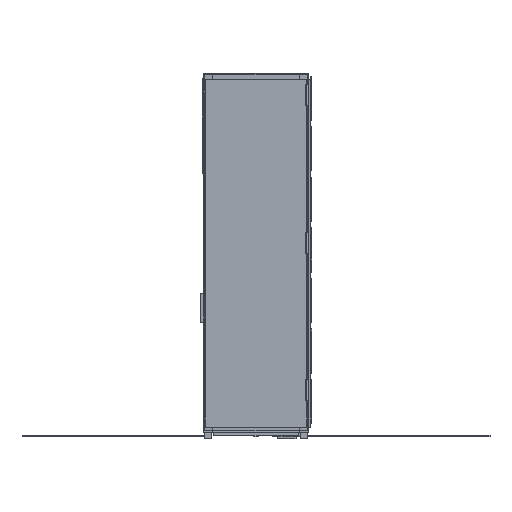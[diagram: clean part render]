
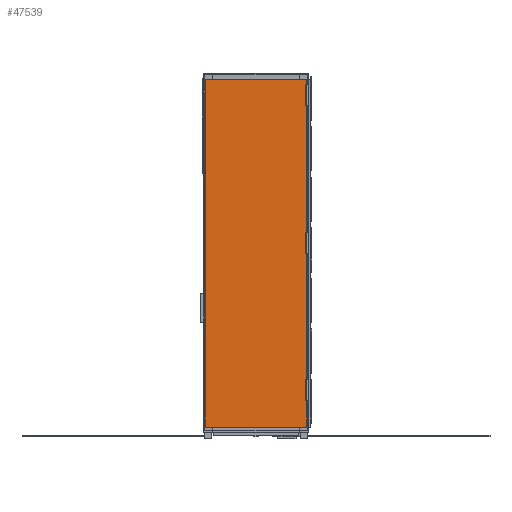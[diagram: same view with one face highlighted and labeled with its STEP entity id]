
A CAD part, front view. The second image highlights one B-rep face of the part: STEP entity #47539.
In plain terms, the highlighted planar face has unit normal (0, -1, 0).
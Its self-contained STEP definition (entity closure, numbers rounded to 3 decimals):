
#47323 = EDGE_CURVE('',#47324,#47326,#47328,.T.);
#47324 = VERTEX_POINT('',#47325);
#47325 = CARTESIAN_POINT('',(-48.,-1.25,-165.));
#47326 = VERTEX_POINT('',#47327);
#47327 = CARTESIAN_POINT('',(-48.,-1.25,165.));
#47328 = SURFACE_CURVE('',#47329,(#47333,#47345),.PCURVE_S1.);
#47329 = LINE('',#47330,#47331);
#47330 = CARTESIAN_POINT('',(-48.,-1.25,-165.));
#47331 = VECTOR('',#47332,1.);
#47332 = DIRECTION('',(0.,0.,1.));
#47333 = PCURVE('',#47334,#47339);
#47334 = PLANE('',#47335);
#47335 = AXIS2_PLACEMENT_3D('',#47336,#47337,#47338);
#47336 = CARTESIAN_POINT('',(-48.,-1.25,-165.));
#47337 = DIRECTION('',(1.,0.,-0.));
#47338 = DIRECTION('',(0.,0.,1.));
#47339 = DEFINITIONAL_REPRESENTATION('',(#47340),#47344);
#47340 = LINE('',#47341,#47342);
#47341 = CARTESIAN_POINT('',(0.,0.));
#47342 = VECTOR('',#47343,1.);
#47343 = DIRECTION('',(1.,0.));
#47344 = ( GEOMETRIC_REPRESENTATION_CONTEXT(2) 
PARAMETRIC_REPRESENTATION_CONTEXT() REPRESENTATION_CONTEXT('2D SPACE',''
  ) );
#47345 = PCURVE('',#47346,#47351);
#47346 = PLANE('',#47347);
#47347 = AXIS2_PLACEMENT_3D('',#47348,#47349,#47350);
#47348 = CARTESIAN_POINT('',(-48.,-1.25,-165.));
#47349 = DIRECTION('',(-0.,1.,0.));
#47350 = DIRECTION('',(0.,0.,1.));
#47351 = DEFINITIONAL_REPRESENTATION('',(#47352),#47356);
#47352 = LINE('',#47353,#47354);
#47353 = CARTESIAN_POINT('',(0.,0.));
#47354 = VECTOR('',#47355,1.);
#47355 = DIRECTION('',(1.,0.));
#47356 = ( GEOMETRIC_REPRESENTATION_CONTEXT(2) 
PARAMETRIC_REPRESENTATION_CONTEXT() REPRESENTATION_CONTEXT('2D SPACE',''
  ) );
#47374 = PLANE('',#47375);
#47375 = AXIS2_PLACEMENT_3D('',#47376,#47377,#47378);
#47376 = CARTESIAN_POINT('',(-48.,-1.25,-165.));
#47377 = DIRECTION('',(0.,0.,1.));
#47378 = DIRECTION('',(1.,0.,-0.));
#47428 = PLANE('',#47429);
#47429 = AXIS2_PLACEMENT_3D('',#47430,#47431,#47432);
#47430 = CARTESIAN_POINT('',(-48.,-1.25,165.));
#47431 = DIRECTION('',(0.,0.,1.));
#47432 = DIRECTION('',(1.,0.,-0.));
#47443 = EDGE_CURVE('',#47444,#47446,#47448,.T.);
#47444 = VERTEX_POINT('',#47445);
#47445 = CARTESIAN_POINT('',(48.,-1.25,-165.));
#47446 = VERTEX_POINT('',#47447);
#47447 = CARTESIAN_POINT('',(48.,-1.25,165.));
#47448 = SURFACE_CURVE('',#47449,(#47453,#47465),.PCURVE_S1.);
#47449 = LINE('',#47450,#47451);
#47450 = CARTESIAN_POINT('',(48.,-1.25,-165.));
#47451 = VECTOR('',#47452,1.);
#47452 = DIRECTION('',(0.,0.,1.));
#47453 = PCURVE('',#47454,#47459);
#47454 = PLANE('',#47455);
#47455 = AXIS2_PLACEMENT_3D('',#47456,#47457,#47458);
#47456 = CARTESIAN_POINT('',(48.,-1.25,-165.));
#47457 = DIRECTION('',(1.,0.,-0.));
#47458 = DIRECTION('',(0.,0.,1.));
#47459 = DEFINITIONAL_REPRESENTATION('',(#47460),#47464);
#47460 = LINE('',#47461,#47462);
#47461 = CARTESIAN_POINT('',(0.,0.));
#47462 = VECTOR('',#47463,1.);
#47463 = DIRECTION('',(1.,0.));
#47464 = ( GEOMETRIC_REPRESENTATION_CONTEXT(2) 
PARAMETRIC_REPRESENTATION_CONTEXT() REPRESENTATION_CONTEXT('2D SPACE',''
  ) );
#47465 = PCURVE('',#47346,#47466);
#47466 = DEFINITIONAL_REPRESENTATION('',(#47467),#47471);
#47467 = LINE('',#47468,#47469);
#47468 = CARTESIAN_POINT('',(0.,96.));
#47469 = VECTOR('',#47470,1.);
#47470 = DIRECTION('',(1.,0.));
#47471 = ( GEOMETRIC_REPRESENTATION_CONTEXT(2) 
PARAMETRIC_REPRESENTATION_CONTEXT() REPRESENTATION_CONTEXT('2D SPACE',''
  ) );
#47539 = ADVANCED_FACE('',(#47540),#47346,.F.);
#47540 = FACE_BOUND('',#47541,.F.);
#47541 = EDGE_LOOP('',(#47542,#47563,#47564,#47585));
#47542 = ORIENTED_EDGE('',*,*,#47543,.F.);
#47543 = EDGE_CURVE('',#47324,#47444,#47544,.T.);
#47544 = SURFACE_CURVE('',#47545,(#47549,#47556),.PCURVE_S1.);
#47545 = LINE('',#47546,#47547);
#47546 = CARTESIAN_POINT('',(-48.,-1.25,-165.));
#47547 = VECTOR('',#47548,1.);
#47548 = DIRECTION('',(1.,0.,-0.));
#47549 = PCURVE('',#47346,#47550);
#47550 = DEFINITIONAL_REPRESENTATION('',(#47551),#47555);
#47551 = LINE('',#47552,#47553);
#47552 = CARTESIAN_POINT('',(0.,0.));
#47553 = VECTOR('',#47554,1.);
#47554 = DIRECTION('',(0.,1.));
#47555 = ( GEOMETRIC_REPRESENTATION_CONTEXT(2) 
PARAMETRIC_REPRESENTATION_CONTEXT() REPRESENTATION_CONTEXT('2D SPACE',''
  ) );
#47556 = PCURVE('',#47374,#47557);
#47557 = DEFINITIONAL_REPRESENTATION('',(#47558),#47562);
#47558 = LINE('',#47559,#47560);
#47559 = CARTESIAN_POINT('',(0.,0.));
#47560 = VECTOR('',#47561,1.);
#47561 = DIRECTION('',(1.,0.));
#47562 = ( GEOMETRIC_REPRESENTATION_CONTEXT(2) 
PARAMETRIC_REPRESENTATION_CONTEXT() REPRESENTATION_CONTEXT('2D SPACE',''
  ) );
#47563 = ORIENTED_EDGE('',*,*,#47323,.T.);
#47564 = ORIENTED_EDGE('',*,*,#47565,.T.);
#47565 = EDGE_CURVE('',#47326,#47446,#47566,.T.);
#47566 = SURFACE_CURVE('',#47567,(#47571,#47578),.PCURVE_S1.);
#47567 = LINE('',#47568,#47569);
#47568 = CARTESIAN_POINT('',(-48.,-1.25,165.));
#47569 = VECTOR('',#47570,1.);
#47570 = DIRECTION('',(1.,0.,-0.));
#47571 = PCURVE('',#47346,#47572);
#47572 = DEFINITIONAL_REPRESENTATION('',(#47573),#47577);
#47573 = LINE('',#47574,#47575);
#47574 = CARTESIAN_POINT('',(330.,0.));
#47575 = VECTOR('',#47576,1.);
#47576 = DIRECTION('',(0.,1.));
#47577 = ( GEOMETRIC_REPRESENTATION_CONTEXT(2) 
PARAMETRIC_REPRESENTATION_CONTEXT() REPRESENTATION_CONTEXT('2D SPACE',''
  ) );
#47578 = PCURVE('',#47428,#47579);
#47579 = DEFINITIONAL_REPRESENTATION('',(#47580),#47584);
#47580 = LINE('',#47581,#47582);
#47581 = CARTESIAN_POINT('',(0.,0.));
#47582 = VECTOR('',#47583,1.);
#47583 = DIRECTION('',(1.,0.));
#47584 = ( GEOMETRIC_REPRESENTATION_CONTEXT(2) 
PARAMETRIC_REPRESENTATION_CONTEXT() REPRESENTATION_CONTEXT('2D SPACE',''
  ) );
#47585 = ORIENTED_EDGE('',*,*,#47443,.F.);
